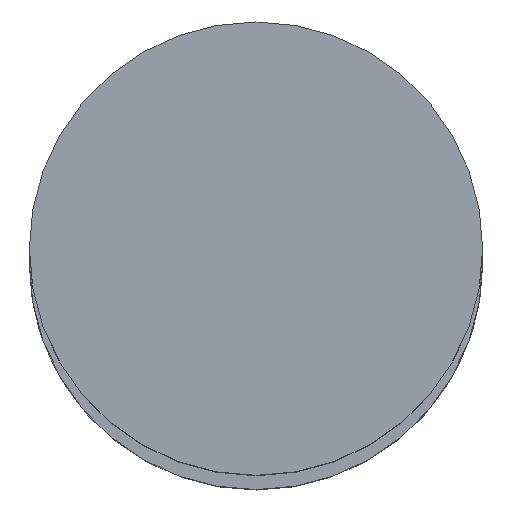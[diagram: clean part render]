
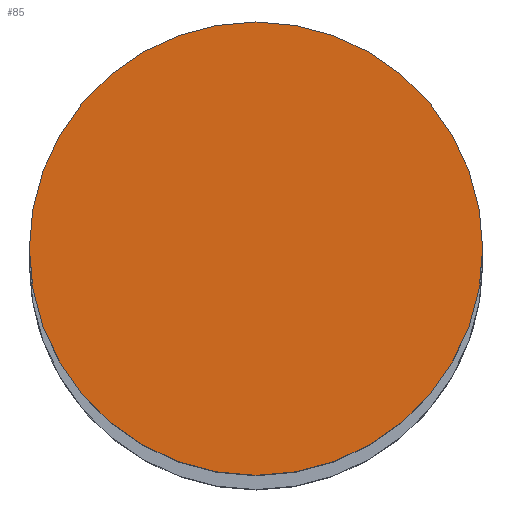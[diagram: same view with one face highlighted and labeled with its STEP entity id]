
A CAD part, top view. The second image highlights one B-rep face of the part: STEP entity #85.
In plain terms, the highlighted planar face has unit normal (0, 0, 1).
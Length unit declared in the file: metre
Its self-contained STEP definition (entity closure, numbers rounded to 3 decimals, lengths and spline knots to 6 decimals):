
#85=ADVANCED_FACE('56:4857',(#165),#166,.F.);
#165=FACE_OUTER_BOUND('',#244,.T.);
#166=PLANE('',#245);
#244=EDGE_LOOP('',(#390,#391));
#245=AXIS2_PLACEMENT_3D('',#392,#393,#394);
#390=ORIENTED_EDGE('',*,*,#433,.F.);
#391=ORIENTED_EDGE('',*,*,#478,.F.);
#392=CARTESIAN_POINT('',(-0.000092,0.000095,3.294));
#393=DIRECTION('',(0.0,0.0,-1.0));
#394=DIRECTION('',(1.0,0.0,0.0));
#433=EDGE_CURVE('27:1418',#505,#501,#507,.T.);
#478=EDGE_CURVE('',#501,#505,#572,.T.);
#501=VERTEX_POINT('',#607);
#505=VERTEX_POINT('',#612);
#507=CIRCLE('',#615,0.0155);
#572=CIRCLE('',#694,0.0155);
#607=CARTESIAN_POINT('',(0.015408,0.000095,3.294));
#612=CARTESIAN_POINT('',(-0.015592,0.000095,3.294));
#615=AXIS2_PLACEMENT_3D('',#736,#737,#738);
#694=AXIS2_PLACEMENT_3D('',#801,#802,#803);
#736=CARTESIAN_POINT('',(-0.000092,0.000095,3.294));
#737=DIRECTION('',(0.0,0.0,-1.0));
#738=DIRECTION('',(1.0,0.0,0.0));
#801=CARTESIAN_POINT('',(-0.000092,0.000095,3.294));
#802=DIRECTION('',(0.0,0.0,-1.0));
#803=DIRECTION('',(1.0,0.0,0.0));
